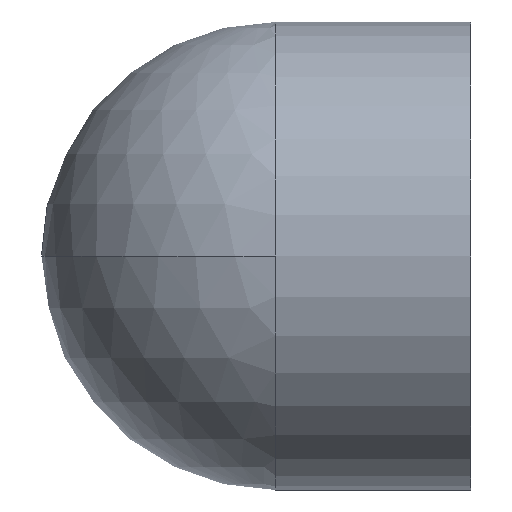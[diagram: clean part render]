
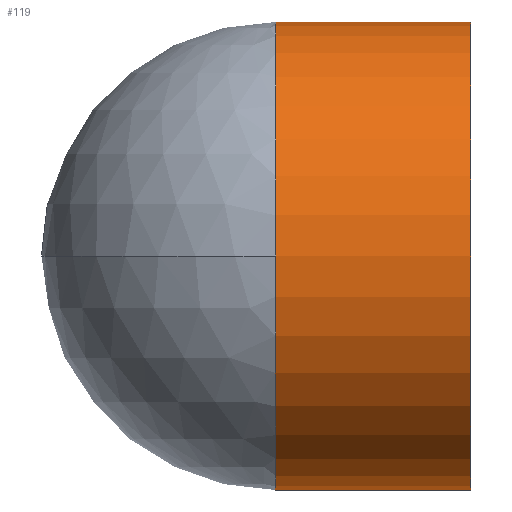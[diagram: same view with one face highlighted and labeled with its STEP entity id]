
A CAD part, left-side view. The second image highlights one B-rep face of the part: STEP entity #119.
In plain terms, the highlighted cylindrical face has radius 76.2 mm (diameter 152.4 mm), a partial arc.
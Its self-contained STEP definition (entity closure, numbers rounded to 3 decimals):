
#2 = AXIS2_PLACEMENT_3D ( 'NONE', #108, #115, #235 ) ;
#3 = EDGE_LOOP ( 'NONE', ( #248, #176, #234, #233, #185 ) ) ;
#12 = CARTESIAN_POINT ( 'NONE',  ( 50.8, -25.4, 0. ) ) ;
#15 = DIRECTION ( 'NONE',  ( 0., -1., 0. ) ) ;
#17 = VERTEX_POINT ( 'NONE', #167 ) ;
#21 = CIRCLE ( 'NONE', #2, 76.2 ) ;
#33 = CARTESIAN_POINT ( 'NONE',  ( 50.8, 38.1, 0. ) ) ;
#56 = LINE ( 'NONE', #227, #194 ) ;
#62 = AXIS2_PLACEMENT_3D ( 'NONE', #33, #196, #243 ) ;
#67 = DIRECTION ( 'NONE',  ( 0., -1., 0. ) ) ;
#73 = DIRECTION ( 'NONE',  ( 0., 0., -1. ) ) ;
#78 = AXIS2_PLACEMENT_3D ( 'NONE', #12, #223, #73 ) ;
#81 = EDGE_CURVE ( 'NONE', #215, #17, #179, .T. ) ;
#89 = EDGE_CURVE ( 'NONE', #147, #259, #101, .T. ) ;
#95 = EDGE_CURVE ( 'NONE', #215, #147, #56, .T. ) ;
#101 = CIRCLE ( 'NONE', #78, 76.2 ) ;
#108 = CARTESIAN_POINT ( 'NONE',  ( 50.8, 38.1, 0. ) ) ;
#112 = DIRECTION ( 'NONE',  ( 0., -1., 0. ) ) ;
#115 = DIRECTION ( 'NONE',  ( 0., -1., 0. ) ) ;
#118 = CYLINDRICAL_SURFACE ( 'NONE', #178, 76.2 ) ;
#119 = ADVANCED_FACE ( 'NONE', ( #206 ), #118, .T. ) ;
#138 = EDGE_CURVE ( 'NONE', #280, #259, #236, .T. ) ;
#141 = CARTESIAN_POINT ( 'NONE',  ( 50.8, 38.1, 76.2 ) ) ;
#147 = VERTEX_POINT ( 'NONE', #171 ) ;
#167 = CARTESIAN_POINT ( 'NONE',  ( -25.4, 38.1, 0. ) ) ;
#170 = VECTOR ( 'NONE', #112, 1000. ) ;
#171 = CARTESIAN_POINT ( 'NONE',  ( 50.8, -25.4, 76.2 ) ) ;
#176 = ORIENTED_EDGE ( 'NONE', *, *, #81, .T. ) ;
#178 = AXIS2_PLACEMENT_3D ( 'NONE', #184, #67, #285 ) ;
#179 = CIRCLE ( 'NONE', #62, 76.2 ) ;
#184 = CARTESIAN_POINT ( 'NONE',  ( 50.8, 38.1, 0. ) ) ;
#185 = ORIENTED_EDGE ( 'NONE', *, *, #89, .F. ) ;
#186 = CARTESIAN_POINT ( 'NONE',  ( 50.8, -25.4, -76.2 ) ) ;
#194 = VECTOR ( 'NONE', #15, 1000. ) ;
#196 = DIRECTION ( 'NONE',  ( 0., -1., 0. ) ) ;
#206 = FACE_OUTER_BOUND ( 'NONE', #3, .T. ) ;
#215 = VERTEX_POINT ( 'NONE', #141 ) ;
#223 = DIRECTION ( 'NONE',  ( 0., -1., 0. ) ) ;
#227 = CARTESIAN_POINT ( 'NONE',  ( 50.8, 38.1, 76.2 ) ) ;
#230 = EDGE_CURVE ( 'NONE', #17, #280, #21, .T. ) ;
#233 = ORIENTED_EDGE ( 'NONE', *, *, #138, .T. ) ;
#234 = ORIENTED_EDGE ( 'NONE', *, *, #230, .T. ) ;
#235 = DIRECTION ( 'NONE',  ( 0., 0., -1. ) ) ;
#236 = LINE ( 'NONE', #312, #170 ) ;
#241 = CARTESIAN_POINT ( 'NONE',  ( 50.8, 38.1, -76.2 ) ) ;
#243 = DIRECTION ( 'NONE',  ( 0., 0., -1. ) ) ;
#248 = ORIENTED_EDGE ( 'NONE', *, *, #95, .F. ) ;
#259 = VERTEX_POINT ( 'NONE', #186 ) ;
#280 = VERTEX_POINT ( 'NONE', #241 ) ;
#285 = DIRECTION ( 'NONE',  ( 0., 0., -1. ) ) ;
#312 = CARTESIAN_POINT ( 'NONE',  ( 50.8, 38.1, -76.2 ) ) ;
